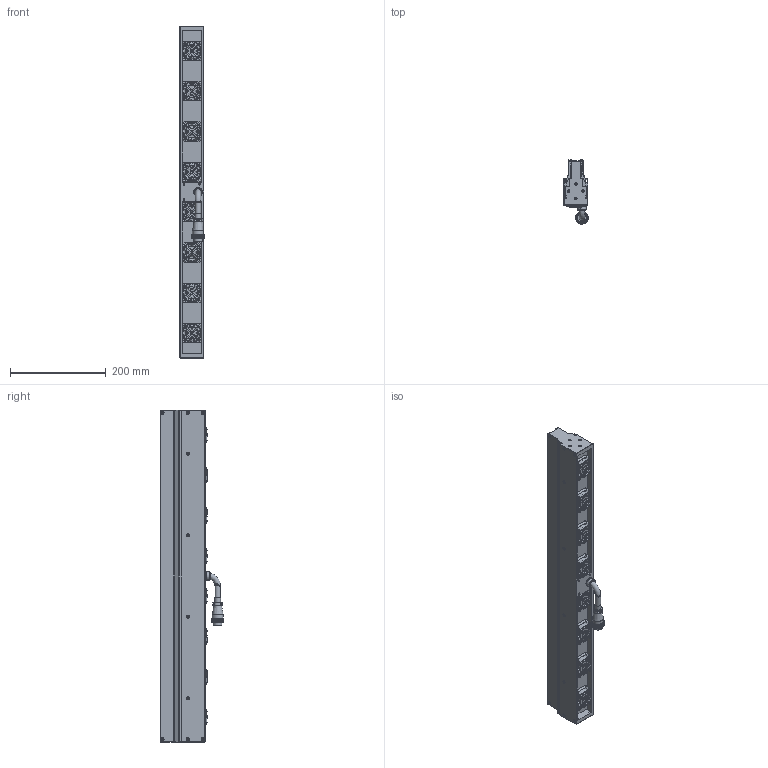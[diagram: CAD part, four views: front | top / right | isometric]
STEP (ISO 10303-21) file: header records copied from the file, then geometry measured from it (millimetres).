
FILE_DESCRIPTION (( 'STEP AP203' ), '1' );
FILE_NAME ('OPT-LSS692-W-V3.1U尨砩芞.STEP', '2025-01-21T07:17:17', ( 'USER' ), ( '' ), 'SwSTEP 2.0', 'SolidWorks 2016', '' );
FILE_SCHEMA (( 'CONFIG_CONTROL_DESIGN' ));
Products named in the file (2): OPT-LSS692-W-V3.1U尨砩芞
Bounding box: 50.6 x 133 x 692 mm (x, y, z)
Volume: 2360856.4 mm3; surface area: 408836.1 mm2
Topology: 38 solids, 54 shells, 3640 faces, 9079 edges, 5713 vertices
Faces by surface type: bspline 1159, cylinder 1103, plane 871, torus 452, cone 55
Full cylindrical faces by diameter (mm): 1 x2, 1.1 x2, 1.4 x2, 1.6 x32, 2 x8, 2.5 x24, 3 x4, 3.2 x36, 3.4 x20, 4 x12, 5 x8, 6.2 x32, 8 x1, 11.6 x1, 11.7 x3, 12 x1, 15 x1, 15.9 x1, 17.5 x1, 18 x1, 18.5 x1, 22.8 x1, 24 x1, 24.8 x8, 38 x8
Entity records: 131468 total; most frequent: CARTESIAN_POINT 58559, ORIENTED_EDGE 17010, DIRECTION 10909, EDGE_CURVE 8505, VERTEX_POINT 5586, B_SPLINE_CURVE_WITH_KNOTS 4641, AXIS2_PLACEMENT_3D 4570, EDGE_LOOP 4299
